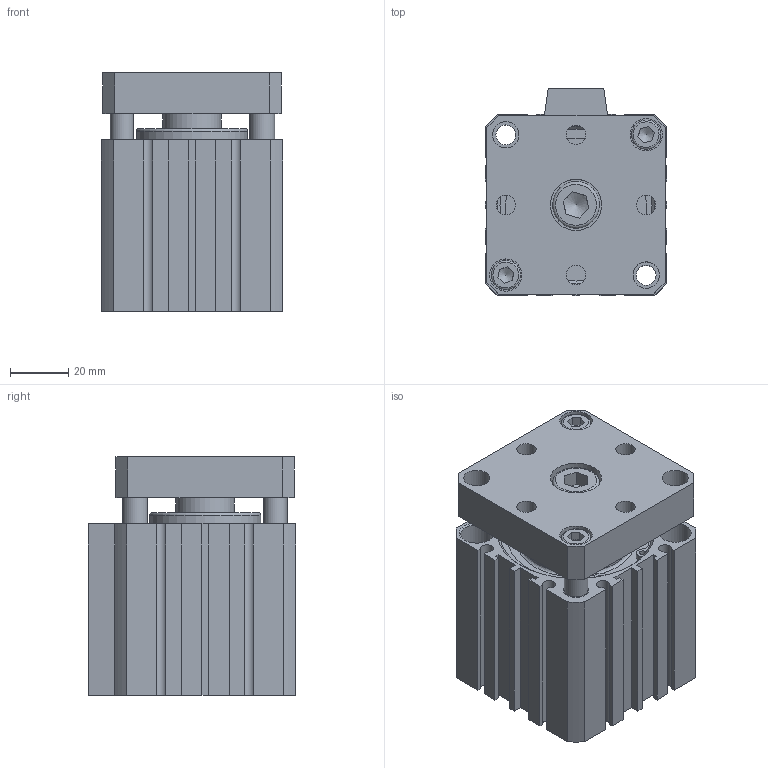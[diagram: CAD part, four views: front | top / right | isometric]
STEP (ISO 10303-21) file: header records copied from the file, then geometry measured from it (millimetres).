
FILE_DESCRIPTION((''),'2;1');
FILE_NAME('I:\3D電子目錄\氣缸\JTD\JTD\JTD50\JTD50x30.stp','2007-08-14T19:26:33',('Administrator'),(''),'Autodesk Inventor 11','Autodesk Inventor 11','');
FILE_SCHEMA(('AUTOMOTIVE_DESIGN { 1 0 10303 214 1 1 1 1 }'));
Length unit declared in the file: millimetre
Products named in the file (5): JTD50; R 形環 52; ISO 4762 M10 x 16; ISO 4762 M6 x 20
Assembly tree (6 placements, depth 2):
  JTD50
    JTD50
    R 形環 52  x2
    ISO 4762 M10 x 16
    ISO 4762 M6 x 20  x2
Bounding box: 62 x 71 x 81.6 mm (x, y, z)
Volume: 246357.7 mm3; surface area: 60788.5 mm2
Topology: 6 solids, 6 shells, 228 faces, 548 edges, 360 vertices
Faces by surface type: plane 135, cylinder 58, bspline 16, cone 14, torus 5
Full cylindrical faces by diameter (mm): 2.3 x4, 2.7 x2, 6 x2, 6.8 x2, 8 x2, 8.5 x3, 9 x2, 10 x3, 11 x4, 16 x1, 20 x1, 37 x1, 38 x1, 52 x4, 55 x2
Entity records: 5925 total; most frequent: CARTESIAN_POINT 1242, DIRECTION 938, ORIENTED_EDGE 844, EDGE_CURVE 422, AXIS2_PLACEMENT_3D 331, EDGE_LOOP 314, VERTEX_POINT 313, VECTOR 276
